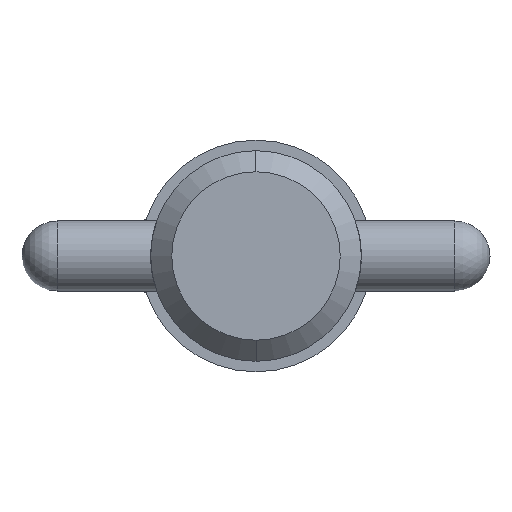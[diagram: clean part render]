
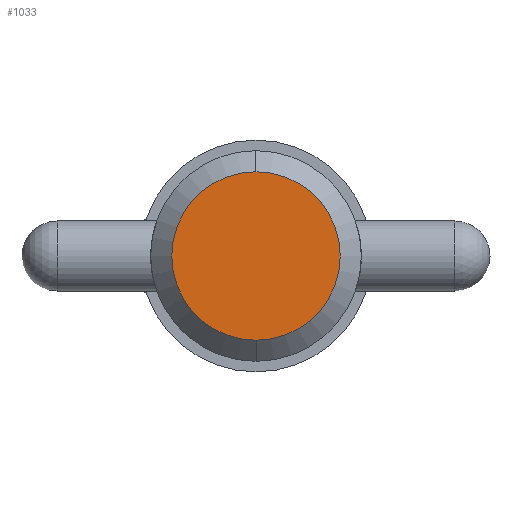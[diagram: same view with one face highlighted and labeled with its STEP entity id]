
A CAD part, left-side view. The second image highlights one B-rep face of the part: STEP entity #1033.
In plain terms, the highlighted planar face has unit normal (-1, 0, 0).
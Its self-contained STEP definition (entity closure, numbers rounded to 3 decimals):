
#34 = DIRECTION ( 'NONE',  ( 1., 0., 0. ) ) ;
#48 = DIRECTION ( 'NONE',  ( 0., 0., 1. ) ) ;
#129 = AXIS2_PLACEMENT_3D ( 'NONE', #774, #280, #48 ) ;
#135 = CARTESIAN_POINT ( 'NONE',  ( 0., 0., 0. ) ) ;
#237 = DIRECTION ( 'NONE',  ( 0., 0., -1. ) ) ;
#246 = AXIS2_PLACEMENT_3D ( 'NONE', #438, #34, #768 ) ;
#251 = VERTEX_POINT ( 'NONE', #407 ) ;
#280 = DIRECTION ( 'NONE',  ( -1., 0., 0. ) ) ;
#299 = EDGE_CURVE ( 'NONE', #251, #412, #884, .T. ) ;
#407 = CARTESIAN_POINT ( 'NONE',  ( 0., 0., -5.716 ) ) ;
#412 = VERTEX_POINT ( 'NONE', #663 ) ;
#414 = AXIS2_PLACEMENT_3D ( 'NONE', #135, #559, #237 ) ;
#438 = CARTESIAN_POINT ( 'NONE',  ( 0., 0., 0. ) ) ;
#459 = CIRCLE ( 'NONE', #246, 5.716 ) ;
#559 = DIRECTION ( 'NONE',  ( 1., 0., 0. ) ) ;
#571 = ORIENTED_EDGE ( 'NONE', *, *, #299, .F. ) ;
#663 = CARTESIAN_POINT ( 'NONE',  ( 0., 0., 5.716 ) ) ;
#686 = PLANE ( 'NONE',  #129 ) ;
#730 = EDGE_LOOP ( 'NONE', ( #571, #829 ) ) ;
#762 = FACE_OUTER_BOUND ( 'NONE', #730, .T. ) ;
#768 = DIRECTION ( 'NONE',  ( 0., 0., -1. ) ) ;
#774 = CARTESIAN_POINT ( 'NONE',  ( 0., 0., 0. ) ) ;
#829 = ORIENTED_EDGE ( 'NONE', *, *, #987, .F. ) ;
#884 = CIRCLE ( 'NONE', #414, 5.716 ) ;
#987 = EDGE_CURVE ( 'NONE', #412, #251, #459, .T. ) ;
#1033 = ADVANCED_FACE ( 'NONE', ( #762 ), #686, .T. ) ;
